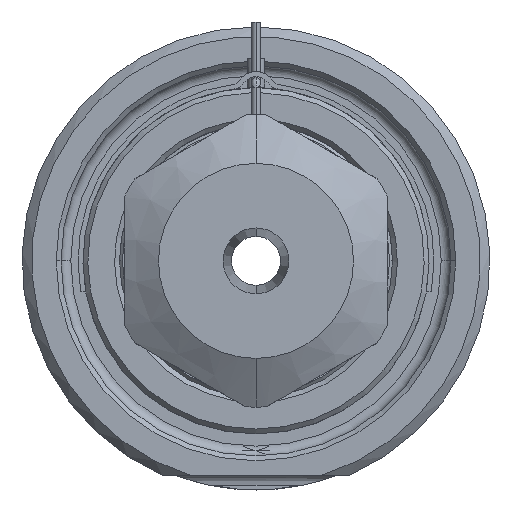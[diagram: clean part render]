
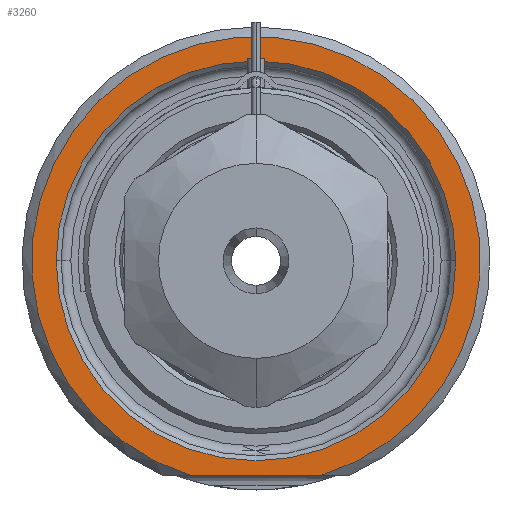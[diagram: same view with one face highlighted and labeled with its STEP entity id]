
A CAD part, front view. The second image highlights one B-rep face of the part: STEP entity #3260.
In plain terms, the highlighted planar face has unit normal (0, -1, 0).
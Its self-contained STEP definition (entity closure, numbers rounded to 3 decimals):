
#1=DIRECTION('',(1.,0.,0.));
#2=VECTOR('',#1,13.416);
#3=CARTESIAN_POINT('',(-6.708,0.,-22.));
#4=LINE('',#3,#2);
#5=CARTESIAN_POINT('',(0.,0.,0.));
#6=DIRECTION('',(0.,1.,0.));
#7=DIRECTION('',(-1.,0.,0.));
#8=AXIS2_PLACEMENT_3D('',#5,#6,#7);
#10=CARTESIAN_POINT('',(0.,0.,0.));
#11=DIRECTION('',(0.,1.,0.));
#12=DIRECTION('',(1.,0.,0.));
#13=AXIS2_PLACEMENT_3D('',#10,#11,#12);
#121=CARTESIAN_POINT('',(0.,0.,0.));
#122=DIRECTION('',(0.,-1.,0.));
#123=DIRECTION('',(0.292,0.,-0.957));
#124=AXIS2_PLACEMENT_3D('',#121,#122,#123);
#2711=CARTESIAN_POINT('',(-20.5,0.,0.));
#2712=CARTESIAN_POINT('',(20.5,0.,0.));
#2713=VERTEX_POINT('',#2711);
#2714=VERTEX_POINT('',#2712);
#2765=CARTESIAN_POINT('',(-6.708,0.,-22.));
#2766=CARTESIAN_POINT('',(6.708,0.,-22.));
#2767=VERTEX_POINT('',#2765);
#2768=VERTEX_POINT('',#2766);
#3243=CARTESIAN_POINT('',(0.,0.,0.));
#3244=DIRECTION('',(0.,-1.,0.));
#3245=DIRECTION('',(1.,0.,0.));
#3246=AXIS2_PLACEMENT_3D('',#3243,#3244,#3245);
#3247=PLANE('',#3246);
#3249=ORIENTED_EDGE('',*,*,#3248,.F.);
#3251=ORIENTED_EDGE('',*,*,#3250,.F.);
#3252=EDGE_LOOP('',(#3249,#3251));
#3253=FACE_OUTER_BOUND('',#3252,.F.);
#3255=ORIENTED_EDGE('',*,*,#3254,.F.);
#3257=ORIENTED_EDGE('',*,*,#3256,.F.);
#3258=EDGE_LOOP('',(#3255,#3257));
#3259=FACE_BOUND('',#3258,.F.);
#3260=ADVANCED_FACE('',(#3253,#3259),#3247,.T.);
#9=CIRCLE('',#8,20.5);
#14=CIRCLE('',#13,20.5);
#125=CIRCLE('',#124,23.);
#3248=EDGE_CURVE('',#2767,#2768,#4,.T.);
#3250=EDGE_CURVE('',#2768,#2767,#125,.T.);
#3254=EDGE_CURVE('',#2713,#2714,#9,.T.);
#3256=EDGE_CURVE('',#2714,#2713,#14,.T.);
